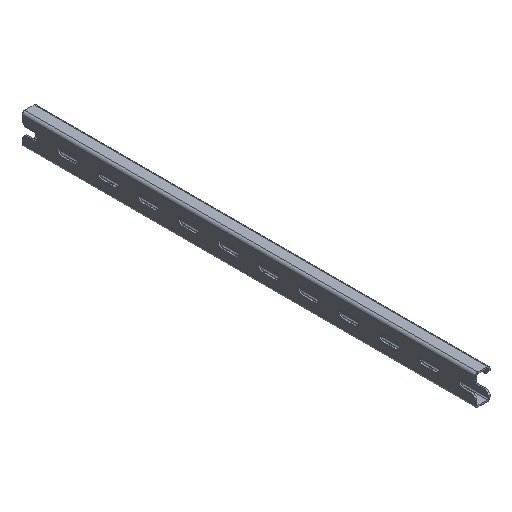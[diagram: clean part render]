
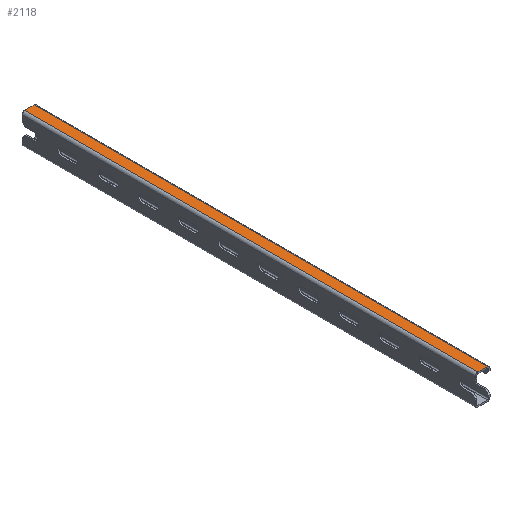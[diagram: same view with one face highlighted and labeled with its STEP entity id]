
A CAD part, isometric view. The second image highlights one B-rep face of the part: STEP entity #2118.
In plain terms, the highlighted planar face has unit normal (0, 0, 1).
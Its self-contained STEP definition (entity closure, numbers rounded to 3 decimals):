
#88 = EDGE_CURVE ( 'NONE', #1162, #1158, #2586, .T. ) ;
#89 = EDGE_CURVE ( 'NONE', #1154, #1156, #2583, .T. ) ;
#432 = AXIS2_PLACEMENT_3D ( 'NONE', #466, #475, #476 ) ;
#438 = FACE_OUTER_BOUND ( 'NONE', #1260, .T. ) ;
#466 = CARTESIAN_POINT ( 'NONE',  ( 0., 282.25, 19. ) ) ;
#468 = PLANE ( 'NONE',  #432 ) ;
#475 = DIRECTION ( 'NONE',  ( 0., 0., -1. ) ) ;
#476 = DIRECTION ( 'NONE',  ( -1., 0., 0. ) ) ;
#797 = ORIENTED_EDGE ( 'NONE', *, *, #88, .T. ) ;
#799 = ORIENTED_EDGE ( 'NONE', *, *, #89, .F. ) ;
#800 = ORIENTED_EDGE ( 'NONE', *, *, #2020, .T. ) ;
#802 = ORIENTED_EDGE ( 'NONE', *, *, #2013, .F. ) ;
#1154 = VERTEX_POINT ( 'NONE', #2325 ) ;
#1156 = VERTEX_POINT ( 'NONE', #2323 ) ;
#1158 = VERTEX_POINT ( 'NONE', #2321 ) ;
#1162 = VERTEX_POINT ( 'NONE', #2317 ) ;
#1260 = EDGE_LOOP ( 'NONE', ( #800, #799, #802, #797 ) ) ;
#1506 = VECTOR ( 'NONE', #1737, 1000. ) ;
#1518 = VECTOR ( 'NONE', #1817, 1000. ) ;
#1640 = VECTOR ( 'NONE', #2584, 1000. ) ;
#1659 = VECTOR ( 'NONE', #2581, 1000. ) ;
#1733 = LINE ( 'NONE', #1734, #1506 ) ;
#1734 = CARTESIAN_POINT ( 'NONE',  ( 0., -282.25, 19. ) ) ;
#1737 = DIRECTION ( 'NONE',  ( 1., 0., 0. ) ) ;
#1815 = LINE ( 'NONE', #1816, #1518 ) ;
#1816 = CARTESIAN_POINT ( 'NONE',  ( 0., 282.25, 19. ) ) ;
#1817 = DIRECTION ( 'NONE',  ( 1., 0., 0. ) ) ;
#2013 = EDGE_CURVE ( 'NONE', #1162, #1154, #1815, .T. ) ;
#2020 = EDGE_CURVE ( 'NONE', #1158, #1156, #1733, .T. ) ;
#2118 = ADVANCED_FACE ( 'NONE', ( #438 ), #468, .F. ) ;
#2317 = CARTESIAN_POINT ( 'NONE',  ( 3.5, 282.25, 19. ) ) ;
#2321 = CARTESIAN_POINT ( 'NONE',  ( 3.5, -282.25, 19. ) ) ;
#2323 = CARTESIAN_POINT ( 'NONE',  ( 15., -282.25, 19. ) ) ;
#2325 = CARTESIAN_POINT ( 'NONE',  ( 15., 282.25, 19. ) ) ;
#2581 = DIRECTION ( 'NONE',  ( 0., -1., 0. ) ) ;
#2582 = CARTESIAN_POINT ( 'NONE',  ( 15., 282.25, 19. ) ) ;
#2583 = LINE ( 'NONE', #2582, #1659 ) ;
#2584 = DIRECTION ( 'NONE',  ( 0., -1., 0. ) ) ;
#2585 = CARTESIAN_POINT ( 'NONE',  ( 3.5, 282.25, 19. ) ) ;
#2586 = LINE ( 'NONE', #2585, #1640 ) ;
